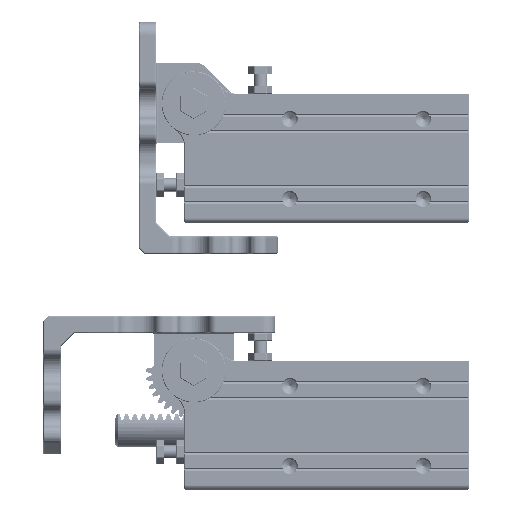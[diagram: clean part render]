
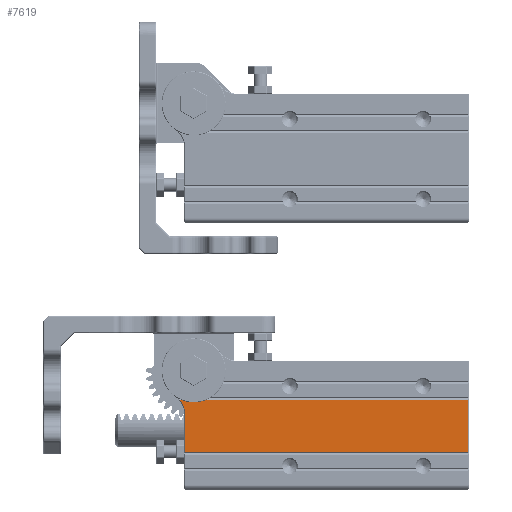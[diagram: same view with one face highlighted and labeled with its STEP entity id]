
A CAD part, left-side view. The second image highlights one B-rep face of the part: STEP entity #7619.
In plain terms, the highlighted planar face has unit normal (-1, 0, 0).
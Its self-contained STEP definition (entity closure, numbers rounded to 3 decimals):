
#4125=FACE_OUTER_BOUND('',#15538,.T.);
#7619=ADVANCED_FACE('',(#4125),#10717,.T.);
#10717=PLANE('',#73055);
#15538=EDGE_LOOP('',(#45986,#45987,#45988,#45989,#45990,#45991,#45992));
#22468=LINE('',#147201,#30042);
#22470=LINE('',#147206,#30044);
#22641=LINE('',#147760,#30215);
#22643=LINE('',#147767,#30217);
#22644=LINE('',#147768,#30218);
#30042=VECTOR('',#87210,1.);
#30044=VECTOR('',#87212,1.);
#30215=VECTOR('',#87597,1.);
#30217=VECTOR('',#87605,1.);
#30218=VECTOR('',#87606,1.);
#45986=ORIENTED_EDGE('',*,*,#64902,.F.);
#45987=ORIENTED_EDGE('',*,*,#65146,.T.);
#45988=ORIENTED_EDGE('',*,*,#64900,.F.);
#45989=ORIENTED_EDGE('',*,*,#65147,.T.);
#45990=ORIENTED_EDGE('',*,*,#65148,.T.);
#45991=ORIENTED_EDGE('',*,*,#65144,.T.);
#45992=ORIENTED_EDGE('',*,*,#65149,.T.);
#56290=VERTEX_POINT('',#147202);
#56291=VERTEX_POINT('',#147203);
#56292=VERTEX_POINT('',#147205);
#56293=VERTEX_POINT('',#147207);
#56458=VERTEX_POINT('',#147759);
#56459=VERTEX_POINT('',#147761);
#56460=VERTEX_POINT('',#147766);
#64900=EDGE_CURVE('',#56290,#56291,#22468,.T.);
#64902=EDGE_CURVE('',#56292,#56293,#22470,.T.);
#65144=EDGE_CURVE('',#56459,#56458,#22641,.T.);
#65146=EDGE_CURVE('',#56292,#56291,#68959,.T.);
#65147=EDGE_CURVE('',#56290,#56460,#68960,.T.);
#65148=EDGE_CURVE('',#56460,#56459,#22643,.T.);
#65149=EDGE_CURVE('',#56458,#56293,#22644,.T.);
#68959=CIRCLE('',#73053,11.8);
#68960=CIRCLE('',#73054,8.3);
#73053=AXIS2_PLACEMENT_3D('',#147764,#87601,#87602);
#73054=AXIS2_PLACEMENT_3D('',#147765,#87603,#87604);
#73055=AXIS2_PLACEMENT_3D('',#147769,#87607,#87608);
#87210=DIRECTION('',(0.,-1.,0.));
#87212=DIRECTION('',(0.,-1.,0.));
#87597=DIRECTION('',(0.,-1.,0.));
#87601=DIRECTION('',(1.,0.,0.));
#87602=DIRECTION('',(0.,0.,1.));
#87603=DIRECTION('',(1.,0.,0.));
#87604=DIRECTION('',(0.,0.,1.));
#87605=DIRECTION('',(0.,0.,-1.));
#87606=DIRECTION('',(0.,0.,1.));
#87607=DIRECTION('',(-1.,0.,0.));
#87608=DIRECTION('',(0.,-1.,0.));
#147201=CARTESIAN_POINT('',(-30.25,255.7,5.8));
#147202=CARTESIAN_POINT('',(-30.25,108.165,5.8));
#147203=CARTESIAN_POINT('',(-30.25,107.271,5.8));
#147205=CARTESIAN_POINT('',(-30.25,98.729,5.8));
#147206=CARTESIAN_POINT('',(-30.25,255.7,5.8));
#147207=CARTESIAN_POINT('',(-30.25,0.3,5.8));
#147759=CARTESIAN_POINT('',(-30.25,0.3,-13.8));
#147760=CARTESIAN_POINT('',(-30.25,255.7,-13.8));
#147761=CARTESIAN_POINT('',(-30.25,106.2,-13.8));
#147764=CARTESIAN_POINT('',(-30.25,103.,16.8));
#147765=CARTESIAN_POINT('',(-30.25,114.5,0.437));
#147766=CARTESIAN_POINT('',(-30.25,106.2,0.437));
#147767=CARTESIAN_POINT('',(-30.25,106.2,11.8));
#147768=CARTESIAN_POINT('',(-30.25,0.3,11.8));
#147769=CARTESIAN_POINT('',(-30.25,255.7,11.8));
